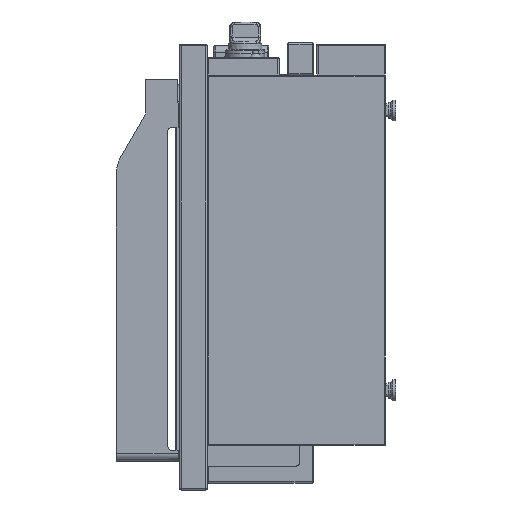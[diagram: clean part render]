
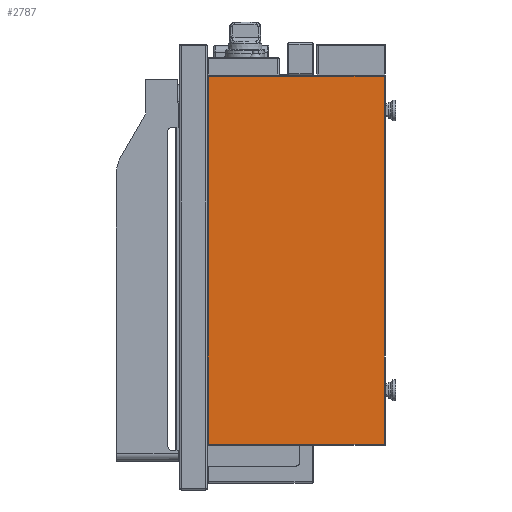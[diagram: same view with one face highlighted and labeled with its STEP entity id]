
A CAD part, left-side view. The second image highlights one B-rep face of the part: STEP entity #2787.
In plain terms, the highlighted planar face has unit normal (-1, 0, 0).
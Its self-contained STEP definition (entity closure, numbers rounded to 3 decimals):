
#588=DIRECTION('',(0.,0.,-1.));
#589=VECTOR('',#588,536.4);
#590=CARTESIAN_POINT('',(-199.,128.2,268.2));
#591=LINE('',#590,#589);
#592=DIRECTION('',(0.,1.,0.));
#593=VECTOR('',#592,256.4);
#594=CARTESIAN_POINT('',(-199.,-128.2,268.2));
#595=LINE('',#594,#593);
#596=DIRECTION('',(0.,0.,1.));
#597=VECTOR('',#596,536.4);
#598=CARTESIAN_POINT('',(-199.,-128.2,-268.2));
#599=LINE('',#598,#597);
#600=DIRECTION('',(0.,-1.,0.));
#601=VECTOR('',#600,256.4);
#602=CARTESIAN_POINT('',(-199.,128.2,-268.2));
#603=LINE('',#602,#601);
#1642=CARTESIAN_POINT('',(-199.,128.2,268.2));
#1643=CARTESIAN_POINT('',(-199.,128.2,-268.2));
#1644=VERTEX_POINT('',#1642);
#1645=VERTEX_POINT('',#1643);
#1646=CARTESIAN_POINT('',(-199.,-128.2,268.2));
#1647=VERTEX_POINT('',#1646);
#1666=CARTESIAN_POINT('',(-199.,-128.2,-268.2));
#1667=VERTEX_POINT('',#1666);
#2773=CARTESIAN_POINT('',(-199.,0.,0.));
#2774=DIRECTION('',(1.,0.,0.));
#2775=DIRECTION('',(0.,0.,-1.));
#2776=AXIS2_PLACEMENT_3D('',#2773,#2774,#2775);
#2777=PLANE('',#2776);
#2779=ORIENTED_EDGE('',*,*,#2778,.F.);
#2781=ORIENTED_EDGE('',*,*,#2780,.F.);
#2783=ORIENTED_EDGE('',*,*,#2782,.F.);
#2784=ORIENTED_EDGE('',*,*,#2766,.F.);
#2785=EDGE_LOOP('',(#2779,#2781,#2783,#2784));
#2786=FACE_OUTER_BOUND('',#2785,.F.);
#2766=EDGE_CURVE('',#1645,#1667,#603,.T.);
#2778=EDGE_CURVE('',#1644,#1645,#591,.T.);
#2780=EDGE_CURVE('',#1647,#1644,#595,.T.);
#2782=EDGE_CURVE('',#1667,#1647,#599,.T.);
#2787=ADVANCED_FACE('',(#2786),#2777,.F.);
